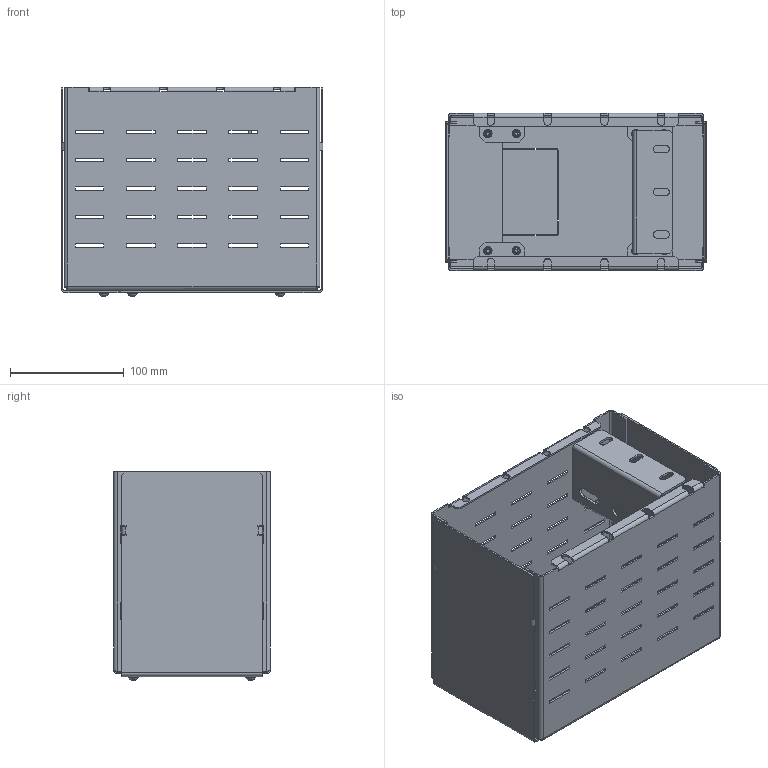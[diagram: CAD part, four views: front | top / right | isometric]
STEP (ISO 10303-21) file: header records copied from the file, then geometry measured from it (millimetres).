
FILE_DESCRIPTION(('STEP AP203'), '1');
FILE_NAME('Êîðîáêà êîììóòàöèîííàÿ çàäíÿÿ 150õ250 ìì OptiBox M 419149 ÊÝÀÇ', '', ('UNSPECIFIED'), ('UNSPECIFIED'), 'C3D Converter', 'C3D Toolkit', '');
FILE_SCHEMA(('CONFIG_CONTROL_DESIGN'));
Length unit declared in the file: millimetre
Bounding box: 230 x 138 x 183.96 mm (x, y, z)
Volume: 276419.4 mm3; surface area: 376691.1 mm2
Topology: 19 solids, 19 shells, 735 faces, 1925 edges, 1226 vertices
Faces by surface type: plane 574, cylinder 125, cone 22, bspline 8, torus 6
Full cylindrical faces by diameter (mm): 5 x14, 6 x14, 7 x8, 7.3 x8, 8.5 x6, 9 x1, 10 x8
Entity records: 28382 total; most frequent: CARTESIAN_POINT 10092, ORIENTED_EDGE 3676, DIRECTION 3480, EDGE_CURVE 1838, LINE 1532, VECTOR 1532, VERTEX_POINT 1226, EDGE_LOOP 1016
